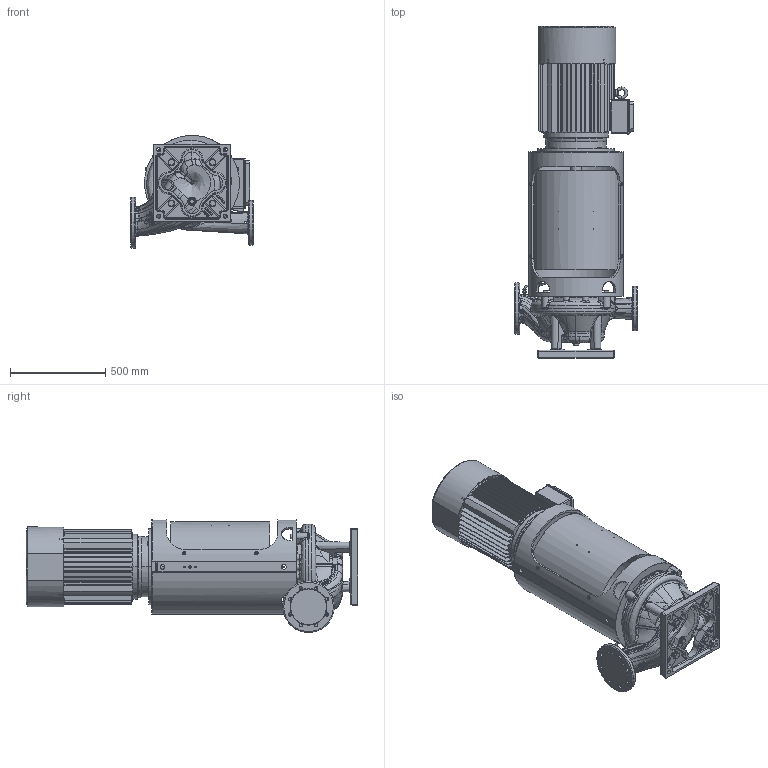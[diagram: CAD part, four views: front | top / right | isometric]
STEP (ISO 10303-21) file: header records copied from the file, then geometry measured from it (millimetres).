
FILE_DESCRIPTION((''),'2;1');
FILE_NAME('NSL100-330_A13_844460_ASM','2019-08-23T',('BRHE'),(''),'PRO/ENGINEER BY PARAMETRIC TECHNOLOGY CORPORATION, 2017170','PRO/ENGINEER BY PARAMETRIC TECHNOLOGY CORPORATION, 2017170','');
FILE_SCHEMA(('CONFIG_CONTROL_DESIGN'));
Length unit declared in the file: millimetre
Products named in the file (23): 105078; 708069; 708070; 672514_ASM; 513840; 704187; 506962; 709619; 704279; 704391; 673325_ASM; 673324_ASM; 513942; 673276_ASM; 700323; 110190-1_AF0; 760288; 110190_AF0_ASM; 707014; 706719; 673270_ASM; 844460; NSL100-330_A13_844460_ASM
Assembly tree (43 placements, depth 4):
  NSL100-330_A13_844460_ASM
    673324_ASM
      672514_ASM
        105078
        708069  x4
        708070  x4
      673325_ASM
        513840
        704187
        506962
        709619
        704279  x4
        704391
    673270_ASM
      513942
      673276_ASM
      700323  x4
      110190_AF0_ASM
        110190-1_AF0
        760288  x4
      707014  x4
      706719  x4
    844460
Bounding box: 650 x 1746.65 x 594.13 mm (x, y, z)
Volume: 109748025.5 mm3; surface area: 7477707.6 mm2
Topology: 41 solids, 85 shells, 4427 faces, 11654 edges, 7459 vertices
Faces by surface type: plane 2042, cylinder 916, bspline 806, cone 368, torus 161, extrusion 98, sphere 36
Entity records: 250235 total; most frequent: CARTESIAN_POINT 156037, ORIENTED_EDGE 21726, DIRECTION 16099, EDGE_CURVE 10938, VERTEX_POINT 7039, AXIS2_PLACEMENT_3D 5860, EDGE_LOOP 4445, VECTOR 4379
